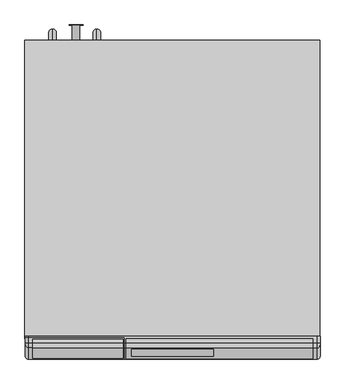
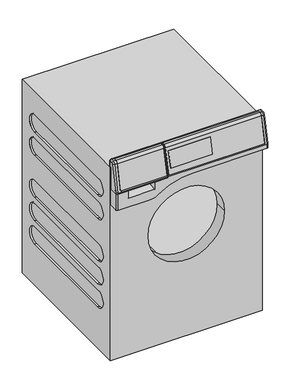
"""IFC4 building model written with IfcOpenShell, lengths in millimetres: proxy geometry, 11470760_ZER_PWM307DP_LWCC : 51307172_ZER_11470760_PWM307DP_LWCC."""

from ifc_helpers import new_model, si_unit, point, frame, frame_2d, origin, place, context, project, spatial, polyline, circle_curve, ellipse_curve, trimmed, segment, composite_curve, outline, extrude, source, transform, mapped, element, save
from ifc_brep_helpers import plane_surface, cylinder_surface, revolved_surface, advanced_brep


def specialty_equipment_ffc2add7(model_context):
    return source(origin(), model_context, "Body", "SolidModel", [
        advanced_brep(
        [(-297.5, -634.5, 819.0), (-297.5, -640.0, 819.0), (-297.5, -640.0, 727.0), (-297.5, -671.0, 727.0), (-297.5, -671.0, 730.2642704), (-297.5, -648.6353607, 835.4816256), (-297.5, -644.8274781, 838.6486082), (-297.5, -634.5, 838.9190427), (-97.5, -655.4823939, 836.9370075), (-97.5, -678.0, 731.0), (-97.5, -678.0, 727.0), (-97.5, -640.0, 727.0), (-97.5, -640.0, 819.0), (-97.5, -634.5, 819.0), (-97.5, -634.5, 845.9214422), (-97.5, -645.0107168, 845.6462094), (-98.5, -655.4823939, 836.9370075), (-98.5, -677.1497738, 735.0), (-282.5, -677.1497738, 735.0), (-282.5, -655.4823939, 836.9370075), (-290.5, -655.4823939, 836.9370075), (-290.5, -678.0, 731.0), (-290.5, -678.0, 727.0), (-290.5, -634.5, 845.9214422), (-290.5, -645.0107168, 845.6462094), (-282.5, -645.0107168, 845.6462094), (-282.5, -636.5, 845.8690704), (-98.5, -636.5, 845.8690704), (-98.5, -645.0107168, 845.6462094), (-98.5, -654.5042463, 836.7290958), (-98.5, -676.1274332, 735.0), (-98.5, -636.5, 844.8687276), (-98.5, -644.9845398, 844.6465521), (-282.5, -654.5042463, 836.7290958), (-282.5, -644.9845398, 844.6465521), (-282.5, -636.5, 844.8687276), (-282.5, -676.1274332, 735.0)],
        [
            (0, 1),
            (1, 2),
            (2, 3),
            (3, 4),
            (4, 5),
            (5, 6, circle_curve(frame((-297.5, -644.7227703, 834.6499789), z_axis=(-1.0, 0.0, 0.0), x_axis=(0.0, -0.978147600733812, 0.20791169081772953)), 4.0)),
            (6, 7),
            (7, 0),
            (8, 9),
            (9, 10),
            (10, 11),
            (11, 12),
            (12, 13),
            (13, 14),
            (14, 15),
            (15, 8, circle_curve(frame((-97.5, -644.7227703, 834.6499789), z_axis=(1.0, 0.0, 0.0), x_axis=(0.0, 1.0, 0.0)), 11.0)),
            (8, 16),
            (16, 17),
            (17, 18),
            (18, 19),
            (19, 20),
            (20, 21),
            (21, 9),
            (21, 22),
            (22, 10),
            (22, 3, circle_curve(frame((-290.5, -671.0, 727.0), z_axis=(0.0, 0.0, -1.0), x_axis=(0.0, 1.0, 0.0)), 7.0)),
            (2, 11),
            (1, 12),
            (0, 13),
            (7, 23, ellipse_curve(frame((-290.5, -634.5, 838.9190427), z_axis=(0.0, 1.0, 0.0), x_axis=(0.0, 0.0, 1.0)), 7.0023995, 7.0)),
            (23, 14),
            (23, 24),
            (24, 25),
            (25, 26),
            (26, 27),
            (27, 28),
            (28, 15),
            (28, 16, circle_curve(frame((-98.5, -644.7227703, 834.6499789), z_axis=(1.0, 0.0, 0.0), x_axis=(0.0, 1.0, 0.0)), 11.0)),
            (19, 25, circle_curve(frame((-282.5, -644.7227703, 834.6499789), z_axis=(-1.0, 0.0, 0.0), x_axis=(0.0, 1.0, 0.0)), 11.0)),
            (24, 20, circle_curve(frame((-290.5, -644.7227703, 834.6499789), z_axis=(1.0, 0.0, 0.0), x_axis=(0.0, 1.0, 0.0)), 11.0)),
            (29, 30),
            (30, 17),
            (27, 31),
            (31, 32),
            (32, 29, circle_curve(frame((-98.5, -644.7227703, 834.6499789), z_axis=(1.0, 0.0, 0.0), x_axis=(0.0, 1.0, 0.0)), 10.0)),
            (33, 34, circle_curve(frame((-282.5, -644.7227703, 834.6499789), z_axis=(-1.0, 0.0, 0.0), x_axis=(0.0, 1.0, 0.0)), 10.0)),
            (34, 35),
            (35, 26),
            (18, 36),
            (36, 33),
            (29, 33),
            (36, 30),
            (32, 34),
            (31, 35),
            (6, 24, circle_curve(frame((-290.5, -644.8274781, 838.6486082), z_axis=(0.0, 0.9996573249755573, 0.026176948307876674), x_axis=(0.0, 0.026176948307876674, -0.9996573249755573)), 7.0)),
            (21, 4, ellipse_curve(frame((-290.5, -671.0, 730.2642704), z_axis=(0.0, -0.10452846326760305, -0.9945218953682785), x_axis=(0.0, -0.9945218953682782, 0.1045284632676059)), 7.038558, 7.0)),
            (20, 5, circle_curve(frame((-290.5, -648.6353607, 835.4816256), z_axis=(0.0, -0.2079116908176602, -0.9781476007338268), x_axis=(0.0, 0.9781476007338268, -0.2079116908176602)), 7.0)),
        ],
        [
            plane_surface(frame((-297.5, -655.4823939, 836.9370075), z_axis=(-1.0, 0.0, 0.0), x_axis=(0.0, 0.20791169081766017, 0.9781476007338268))),
            plane_surface(frame((-97.5, -655.4823939, 836.9370075), z_axis=(1.0, 0.0, 0.0), x_axis=(0.0, -0.20791169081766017, -0.9781476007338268))),
            plane_surface(frame((-97.5, -655.4823939, 836.9370075), z_axis=(0.0, -0.9781476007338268, 0.20791169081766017), x_axis=(-1.0, 0.0, 0.0))),
            plane_surface(frame((-97.5, -678.0, 731.0), z_axis=(0.0, -1.0, 0.0), x_axis=(-1.0, 0.0, 0.0))),
            plane_surface(frame((-97.5, -678.0, 727.0), z_axis=(0.0, 0.0, -1.0), x_axis=(-1.0, 0.0, 0.0))),
            plane_surface(frame((-97.5, -640.0, 727.0), z_axis=(0.0, 1.0, 0.0), x_axis=(-1.0, 0.0, 0.0))),
            plane_surface(frame((-97.5, -640.0, 819.0), z_axis=(0.0, 0.0, -1.0), x_axis=(-1.0, 0.0, 0.0))),
            plane_surface(frame((-97.5, -634.5, 819.0), z_axis=(0.0, 1.0, 0.0), x_axis=(-1.0, 0.0, 0.0))),
            plane_surface(frame((-97.5, -634.5, 845.9214422), z_axis=(0.0, -0.02617694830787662, 0.9996573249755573), x_axis=(-1.0, 0.0, 0.0))),
            cylinder_surface(frame((-297.5, -644.7227703, 834.6499789), z_axis=(1.0, 0.0, 0.0), x_axis=(0.0, 1.0, 0.0)), 11.0),
            plane_surface(frame((-98.5, -634.7227703, 834.6499789), z_axis=(-1.0, 0.0, 0.0), x_axis=(0.0, 0.0, -1.0))),
            plane_surface(frame((-282.5, -634.7227703, 834.6499789), z_axis=(1.0, 0.0, 0.0), x_axis=(0.0, 0.0, 1.0))),
            plane_surface(frame((-98.5, -676.1274332, 735.0), z_axis=(0.0, -0.9781476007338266, 0.2079116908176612), x_axis=(-1.0, 0.0, 0.0))),
            cylinder_surface(frame((-282.5, -644.7227703, 834.6499789), z_axis=(-1.0, 0.0, 0.0), x_axis=(0.0, 1.0, 0.0)), 10.0),
            plane_surface(frame((-98.5, -644.9845398, 844.6465521), z_axis=(0.0, -0.026176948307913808, 0.9996573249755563), x_axis=(-1.0, 0.0, 0.0))),
            plane_surface(frame((-98.5, -636.5, 844.8687276), z_axis=(0.0, -1.0, 0.0), x_axis=(-1.0, 0.0, 0.0))),
            plane_surface(frame((-98.5, -677.1497738, 735.0), z_axis=(0.0, 0.0, 1.0), x_axis=(-1.0, 0.0, 0.0))),
            cylinder_surface(frame((-290.5, -644.8274781, 838.6486082), z_axis=(0.0, 0.9996573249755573, 0.026176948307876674), x_axis=(0.0, 0.026176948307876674, -0.9996573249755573)), 7.0),
            cylinder_surface(frame((-290.5, -671.0, 727.0), z_axis=(0.0, 0.0, 1.0), x_axis=(0.0, 1.0, 0.0)), 7.0),
            cylinder_surface(frame((-290.5, -671.1529668, 729.5446182), z_axis=(0.0, 0.2079116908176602, 0.9781476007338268), x_axis=(0.0, 0.9781476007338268, -0.2079116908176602)), 7.0),
            revolved_surface(trimmed(ellipse_curve(frame((-290.5, -648.6353607, 835.4816256), z_axis=(0.0, -0.20791169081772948, -0.978147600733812), x_axis=(0.0, 0.978147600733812, -0.20791169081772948)), 7.0, 7.0), [point((-290.5, -655.4823939, 836.9370075))], [point((-297.5, -648.6353607, 835.4816256))], True, "CARTESIAN"), (-297.5, -644.7227703, 834.6499789), (-1.0, 0.0, 0.0)),
        ],
        [
            (0, [[1, 2, 3, 4, 5, 6, 7, 8]]),
            (1, [[9, 10, 11, 12, 13, 14, 15, 16]]),
            (2, [[-9, 17, 18, 19, 20, 21, 22, 23]]),
            (3, [[-10, -23, 24, 25]]),
            (4, [[-11, -25, 26, -3, 27]]),
            (5, [[-2, 28, -12, -27]]),
            (6, [[-1, 29, -13, -28]]),
            (7, [[-14, -29, -8, 30, 31]]),
            (8, [[-15, -31, 32, 33, 34, 35, 36, 37]]),
            (9, [[-16, -37, 38, -17]]),
            (9, [[39, -33, 40, -21]]),
            (10, [[41, 42, -18, -38, -36, 43, 44, 45]]),
            (11, [[46, 47, 48, -34, -39, -20, 49, 50]]),
            (12, [[-41, 51, -50, 52]]),
            (13, [[-45, 53, -46, -51]]),
            (14, [[-44, 54, -47, -53]]),
            (15, [[-43, -35, -48, -54]]),
            (16, [[-42, -52, -49, -19]]),
            (17, [[55, -32, -30, -7]]),
            (18, [[56, -4, -26, -24]]),
            (19, [[-56, -22, 57, -5]]),
            (20, [[-57, -40, -55, -6]]),
        ],
    ),
        extrude(outline(polyline([(-671.2386322, 758.0), (-672.2609728, 758.0), (-658.4447963, 823.0), (-657.4224557, 823.0), (-671.2386322, 758.0)])), frame((-82.5, 0.0, 0.0), z_axis=(1.0, 0.0, 0.0), x_axis=(0.0, 1.0, 0.0)), (0.0, 0.0, 1.0), 165.0),
        advanced_brep(
        [(284.0, -654.5042463, 836.7290958), (284.0, -644.9845398, 844.6465521), (284.0, -636.5, 844.8687276), (284.0, -636.5, 845.8690704), (284.0, -645.0107168, 845.6462094), (284.0, -655.4823939, 836.9370075), (284.0, -677.1497738, 735.0), (284.0, -676.1274332, 735.0), (-93.0, -654.5042463, 836.7290958), (-93.0, -676.1274332, 735.0), (-93.0, -677.1497738, 735.0), (-93.0, -655.4823939, 836.9370075), (-93.0, -645.0107168, 845.6462094), (-93.0, -636.5, 845.8690704), (-93.0, -636.5, 844.8687276), (-93.0, -644.9845398, 844.6465521), (82.5, -658.4447963, 823.0), (82.5, -672.2609728, 758.0), (-82.5, -672.2609728, 758.0), (-82.5, -658.4447963, 823.0), (82.5, -671.2386322, 758.0), (82.5, -657.4224557, 823.0), (-82.5, -657.4224557, 823.0), (-82.5, -671.2386322, 758.0)],
        [
            (0, 1, circle_curve(frame((284.0, -644.7227703, 834.6499789), z_axis=(-1.0, 0.0, 0.0), x_axis=(0.0, 1.0, 0.0)), 10.0)),
            (1, 2),
            (2, 3),
            (3, 4),
            (4, 5, circle_curve(frame((284.0, -644.7227703, 834.6499789), z_axis=(1.0, 0.0, 0.0), x_axis=(0.0, 1.0, 0.0)), 11.0)),
            (5, 6),
            (6, 7),
            (7, 0),
            (8, 9),
            (9, 10),
            (10, 11),
            (11, 12, circle_curve(frame((-93.0, -644.7227703, 834.6499789), z_axis=(-1.0, 0.0, 0.0), x_axis=(0.0, 1.0, 0.0)), 11.0)),
            (12, 13),
            (13, 14),
            (14, 15),
            (15, 8, circle_curve(frame((-93.0, -644.7227703, 834.6499789), z_axis=(1.0, 0.0, 0.0), x_axis=(0.0, 1.0, 0.0)), 10.0)),
            (0, 8),
            (15, 1),
            (14, 2),
            (13, 3),
            (12, 4),
            (11, 5),
            (10, 6),
            (16, 17),
            (17, 18),
            (18, 19),
            (19, 16),
            (9, 7),
            (20, 21),
            (21, 22),
            (22, 23),
            (23, 20),
            (20, 17),
            (16, 21),
            (22, 19),
            (18, 23),
        ],
        [
            plane_surface(frame((284.0, -634.7227703, 834.6499789), z_axis=(1.0, 0.0, 0.0), x_axis=(0.0, 0.0, -1.0))),
            plane_surface(frame((-93.0, -634.7227703, 834.6499789), z_axis=(-1.0, 0.0, 0.0), x_axis=(0.0, 0.0, 1.0))),
            revolved_surface(polyline([(-93.0, -634.7227703, 834.6499789), (284.0, -634.7227703, 834.6499789)]), (-93.0, -644.7227703, 834.6499789), (-1.0, 0.0, 0.0)),
            plane_surface(frame((284.0, -644.9845398, 844.6465521), z_axis=(0.0, 0.02617694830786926, -0.9996573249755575), x_axis=(-1.0, 0.0, 0.0))),
            plane_surface(frame((284.0, -636.5, 844.8687276), z_axis=(0.0, 1.0, 0.0), x_axis=(-1.0, 0.0, 0.0))),
            plane_surface(frame((284.0, -636.5, 845.8690704), z_axis=(0.0, -0.026176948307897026, 0.9996573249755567), x_axis=(-1.0, 0.0, 0.0))),
            cylinder_surface(frame((-93.0, -644.7227703, 834.6499789), z_axis=(1.0, 0.0, 0.0), x_axis=(0.0, 1.0, 0.0)), 11.0),
            plane_surface(frame((284.0, -655.4823939, 836.9370075), z_axis=(0.0, -0.9781476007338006, 0.20791169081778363), x_axis=(-1.0, 0.0, 0.0))),
            plane_surface(frame((284.0, -677.1497738, 735.0), z_axis=(0.0, 0.0, -1.0), x_axis=(-1.0, 0.0, 0.0))),
            plane_surface(frame((284.0, -676.1274332, 735.0), z_axis=(0.0, 0.9781476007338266, -0.2079116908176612), x_axis=(-1.0, 0.0, 0.0))),
            plane_surface(frame((82.5, -658.4447963, 823.0), z_axis=(-1.0, 0.0, 0.0), x_axis=(0.0, -1.0, 0.0))),
            plane_surface(frame((-82.5, -658.4447963, 823.0), z_axis=(1.0, 0.0, 0.0), x_axis=(0.0, 1.0, 0.0))),
            plane_surface(frame((82.5, -657.4224557, 823.0), z_axis=(0.0, 0.0, -1.0), x_axis=(-1.0, 0.0, 0.0))),
            plane_surface(frame((82.5, -672.2609728, 758.0), z_axis=(0.0, 0.0, 1.0), x_axis=(-1.0, 0.0, 0.0))),
        ],
        [
            (0, [[1, 2, 3, 4, 5, 6, 7, 8]]),
            (1, [[9, 10, 11, 12, 13, 14, 15, 16]]),
            (2, [[-1, 17, -16, 18]]),
            (3, [[-2, -18, -15, 19]]),
            (4, [[-3, -19, -14, 20]]),
            (5, [[-4, -20, -13, 21]]),
            (6, [[-5, -21, -12, 22]]),
            (7, [[-6, -22, -11, 23], [24, 25, 26, 27]]),
            (8, [[-7, -23, -10, 28]]),
            (9, [[-8, -28, -9, -17], [29, 30, 31, 32]]),
            (10, [[33, -24, 34, -29]]),
            (11, [[35, -26, 36, -31]]),
            (12, [[-34, -27, -35, -30]]),
            (13, [[-33, -32, -36, -25]]),
        ],
    ),
        advanced_brep(
        [(298.5, -637.0, 816.0), (298.5, -631.5, 816.0), (298.5, -631.5, 838.9976005), (298.5, -644.8274781, 838.6486082), (298.5, -648.6353607, 835.4816256), (298.5, -671.0, 730.2642704), (298.5, -671.0, 713.0), (298.5, -637.0, 713.0), (-297.5, -637.0, 816.0), (-297.5, -637.0, 660.0), (-297.5, -671.0, 660.0), (-297.5, -671.0, 727.0), (-297.5, -640.0, 727.0), (-297.5, -640.0, 819.0), (-297.5, -634.5, 819.0), (-297.5, -634.5, 838.9190427), (-297.5, -631.5, 838.9976005), (-297.5, -631.5, 816.0), (-290.5, -631.5, 846.0), (291.5, -631.5, 846.0), (284.0, -636.5, 845.8690704), (284.0, -645.0107168, 845.6462094), (291.5, -645.0107168, 845.6462094), (-290.5, -634.5, 845.9214422), (-97.5, -634.5, 845.9214422), (-97.5, -645.0107168, 845.6462094), (-93.0, -645.0107168, 845.6462094), (-93.0, -636.5, 845.8690704), (284.0, -655.4823939, 836.9370075), (291.5000072, -655.4823939, 836.9370075), (-93.0, -655.4823939, 836.9370075), (-97.5, -655.4823939, 836.9370075), (284.0, -677.1497738, 735.0), (-93.0, -677.1497738, 735.0), (-97.5, -678.0, 731.0), (291.5, -678.0, 731.0), (-97.5, -678.0, 727.0), (-148.5, -678.0, 727.0), (-148.5, -678.0, 697.0), (-251.5, -678.0, 697.0), (-251.5, -678.0, 727.0), (-290.5, -678.0, 727.0), (-290.5, -678.0, 660.0), (-170.6302935, -678.0, 660.0), (-135.780818, -678.0, 670.5165354), (5.0, -678.0, 713.0), (291.5, -678.0, 713.0), (-170.6302935, -637.0, 660.0), (5.0, -637.0, 713.0), (-135.780818, -637.0, 670.5165354), (284.0, -636.5, 844.8687276), (284.0, -644.9845398, 844.6465521), (284.0, -654.5042463, 836.7290958), (284.0, -676.1274332, 735.0), (-93.0, -676.1274332, 735.0), (-93.0, -654.5042463, 836.7290958), (-93.0, -644.9845398, 844.6465521), (-93.0, -636.5, 844.8687276), (-97.5, -634.5, 819.0), (-97.5, -640.0, 819.0), (-97.5, -640.0, 727.0), (-148.5, -640.0, 727.0), (-251.5, -640.0, 727.0), (-251.5, -640.0, 703.7004253), (-148.5, -640.0, 703.7004253)],
        [
            (0, 1),
            (1, 2),
            (2, 3),
            (3, 4, circle_curve(frame((298.5, -644.7227703, 834.6499789), z_axis=(1.0, 0.0, 0.0), x_axis=(0.0, -0.02617694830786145, 0.9996573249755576)), 4.0)),
            (4, 5),
            (5, 6),
            (6, 7),
            (7, 0),
            (8, 9),
            (9, 10),
            (10, 11),
            (11, 12),
            (12, 13),
            (13, 14),
            (14, 15),
            (15, 16),
            (16, 17),
            (17, 8),
            (0, 8),
            (17, 1),
            (16, 18, ellipse_curve(frame((-290.5, -631.5, 838.9976005), z_axis=(0.0, 1.0, 0.0), x_axis=(0.0, 0.0, 0.9999999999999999)), 7.0023995, 7.0)),
            (18, 19),
            (19, 2, ellipse_curve(frame((291.5, -631.5, 838.9976005), z_axis=(0.0, 1.0, 0.0), x_axis=(0.0, 0.0, -1.0)), 7.0023995, 7.0)),
            (20, 21),
            (21, 22),
            (22, 19),
            (18, 23),
            (23, 24),
            (24, 25),
            (25, 26),
            (26, 27),
            (27, 20),
            (21, 28, circle_curve(frame((284.0, -644.7227703, 834.6499789), z_axis=(1.0, 0.0, 0.0), x_axis=(0.0, 1.0, 0.0)), 11.0)),
            (28, 29),
            (29, 22, circle_curve(frame((291.5, -644.7227703, 834.6499789), z_axis=(-1.0, 0.0, 0.0), x_axis=(0.0, 1.0, 0.0)), 11.0)),
            (30, 26, circle_curve(frame((-93.0, -644.7227703, 834.6499789), z_axis=(-1.0, 0.0, 0.0), x_axis=(0.0, 1.0, 0.0)), 11.0)),
            (25, 31, circle_curve(frame((-97.5, -644.7227703, 834.6499789), z_axis=(1.0, 0.0, 0.0), x_axis=(0.0, 1.0, 0.0)), 11.0)),
            (31, 30),
            (28, 32),
            (32, 33),
            (33, 30),
            (31, 34),
            (34, 35),
            (35, 29),
            (34, 36),
            (36, 37),
            (37, 38),
            (38, 39),
            (39, 40),
            (40, 41),
            (41, 42),
            (42, 43),
            (43, 44, circle_curve(frame((-170.6302935, -678.0, 723.0), z_axis=(0.0, -1.0, 0.0), x_axis=(1.0, 0.0, 0.0)), 63.0)),
            (44, 45, circle_curve(frame((5.0, -678.0, 458.5), z_axis=(0.0, 1.0, 0.0), x_axis=(1.0, 0.0, 0.0)), 254.5)),
            (45, 46),
            (46, 35),
            (9, 47),
            (47, 43),
            (42, 10, circle_curve(frame((-290.5, -671.0, 660.0), z_axis=(0.0, 0.0, -1.0), x_axis=(0.0, 1.0, 0.0)), 7.0)),
            (7, 48),
            (48, 49, circle_curve(frame((5.0, -637.0, 458.5), z_axis=(0.0, -1.0, 0.0), x_axis=(1.0, 0.0, 0.0)), 254.5)),
            (49, 47, circle_curve(frame((-170.6302935, -637.0, 723.0), z_axis=(0.0, 1.0, 0.0), x_axis=(1.0, 0.0, 0.0)), 63.0)),
            (20, 50),
            (50, 51),
            (51, 52, circle_curve(frame((284.0, -644.7227703, 834.6499789), z_axis=(1.0, 0.0, 0.0), x_axis=(0.0, 1.0, 0.0)), 10.0)),
            (52, 53),
            (53, 32),
            (33, 54),
            (54, 55),
            (55, 56, circle_curve(frame((-93.0, -644.7227703, 834.6499789), z_axis=(-1.0, 0.0, 0.0), x_axis=(0.0, 1.0, 0.0)), 10.0)),
            (56, 57),
            (57, 27),
            (53, 54),
            (52, 55),
            (51, 56),
            (50, 57),
            (24, 58),
            (58, 59),
            (59, 60),
            (60, 36),
            (60, 61),
            (61, 37),
            (62, 12),
            (11, 41, circle_curve(frame((-290.5, -671.0, 727.0), z_axis=(0.0, 0.0, 1.0), x_axis=(0.0, 1.0, 0.0)), 7.0)),
            (40, 62),
            (59, 13),
            (62, 63),
            (63, 64),
            (64, 61),
            (58, 14),
            (23, 15, ellipse_curve(frame((-290.5, -634.5, 838.9190427), z_axis=(0.0, -1.0, 0.0), x_axis=(0.0, 0.0, 0.9999999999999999)), 7.0023995, 7.0)),
            (64, 38),
            (39, 63),
            (22, 3, circle_curve(frame((291.5, -644.8274781, 838.6486082), z_axis=(0.0, 0.9996573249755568, 0.02617694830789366), x_axis=(1.0, 0.0, 0.0)), 7.0)),
            (29, 4, circle_curve(frame((291.5, -648.6353607, 835.4816256), z_axis=(0.0, 0.20791169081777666, 0.9781476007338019), x_axis=(1.0, 0.0, 0.0)), 7.0)),
            (35, 5, ellipse_curve(frame((291.5, -671.0, 730.2642704), z_axis=(0.0, 0.10452846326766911, 0.9945218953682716), x_axis=(0.0, -0.9945218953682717, 0.10452846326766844)), 7.038558, 7.0)),
            (46, 6, circle_curve(frame((291.5, -671.0, 713.0), z_axis=(0.0, 0.0, 1.0), x_axis=(1.0, 0.0, 0.0)), 7.0)),
            (45, 48),
            (44, 49),
        ],
        [
            plane_surface(frame((298.5, -631.5, 816.0), z_axis=(1.0, 0.0, 0.0), x_axis=(0.0, 1.0, 0.0))),
            plane_surface(frame((-297.5, -631.5, 816.0), z_axis=(-1.0, 0.0, 0.0), x_axis=(0.0, -1.0, 0.0))),
            plane_surface(frame((298.5, -637.0, 816.0), z_axis=(0.0, 0.0, -1.0), x_axis=(-1.0, 0.0, 0.0))),
            plane_surface(frame((298.5, -631.5, 816.0), z_axis=(0.0, 1.0, 0.0), x_axis=(-1.0, 0.0, 0.0))),
            plane_surface(frame((298.5, -631.5, 846.0), z_axis=(0.0, -0.026176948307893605, 0.9996573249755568), x_axis=(-1.0, 0.0, 0.0))),
            cylinder_surface(frame((-297.5, -644.7227703, 834.6499789), z_axis=(1.0, 0.0, 0.0), x_axis=(0.0, 1.0, 0.0)), 11.0),
            plane_surface(frame((298.5, -655.4823939, 836.9370075), z_axis=(0.0, -0.9781476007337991, 0.20791169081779), x_axis=(-1.0, 0.0, 0.0))),
            plane_surface(frame((298.5, -678.0, 731.0), z_axis=(0.0, -1.0, 0.0), x_axis=(-1.0, 0.0, 0.0))),
            plane_surface(frame((298.5, -678.0, 660.0), z_axis=(0.0, 0.0, -1.0), x_axis=(-1.0, 0.0, 0.0))),
            plane_surface(frame((298.5, -637.0, 660.0), z_axis=(0.0, 1.0, 0.0), x_axis=(-1.0, 0.0, 0.0))),
            plane_surface(frame((284.0, -677.1497738, 735.0), z_axis=(-1.0, 0.0, 0.0), x_axis=(0.0, 1.0, 0.0))),
            plane_surface(frame((-93.0, -677.1497738, 735.0), z_axis=(1.0, 0.0, 0.0), x_axis=(0.0, -1.0, 0.0))),
            plane_surface(frame((284.0, -677.1497738, 735.0), z_axis=(0.0, 0.0, 1.0), x_axis=(-1.0, 0.0, 0.0))),
            plane_surface(frame((284.0, -676.1274332, 735.0), z_axis=(0.0, -0.9781476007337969, 0.20791169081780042), x_axis=(-1.0, 0.0, 0.0))),
            cylinder_surface(frame((-93.0, -644.7227703, 834.6499789), z_axis=(-1.0, 0.0, 0.0), x_axis=(0.0, 1.0, 0.0)), 10.0),
            plane_surface(frame((284.0, -644.9845398, 844.6465521), z_axis=(0.0, -0.026176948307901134, 0.9996573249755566), x_axis=(-1.0, 0.0, 0.0))),
            plane_surface(frame((284.0, -636.5, 844.8687276), z_axis=(0.0, -1.0, 0.0), x_axis=(-1.0, 0.0, 0.0))),
            plane_surface(frame((-97.5, -678.0, 727.0), z_axis=(-1.0, 0.0, 0.0), x_axis=(0.0, 1.0, 0.0))),
            plane_surface(frame((-97.5, -678.0, 727.0), z_axis=(0.0, 0.0, 1.0), x_axis=(-1.0, 0.0, 0.0))),
            plane_surface(frame((-97.5, -640.0, 727.0), z_axis=(0.0, -1.0, 0.0), x_axis=(-1.0, 0.0, 0.0))),
            plane_surface(frame((-97.5, -640.0, 819.0), z_axis=(0.0, 0.0, 1.0), x_axis=(-1.0, 0.0, 0.0))),
            plane_surface(frame((-97.5, -634.5, 819.0), z_axis=(0.0, -1.0, 0.0), x_axis=(-1.0, 0.0, 0.0))),
            plane_surface(frame((-148.5, -678.0, 697.0), z_axis=(-1.0000000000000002, 0.0, 0.0), x_axis=(0.0, 0.9848077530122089, 0.17364817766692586))),
            plane_surface(frame((-251.5, -678.0, 697.0), z_axis=(1.0000000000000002, 0.0, 0.0), x_axis=(0.0, -0.9848077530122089, -0.17364817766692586))),
            plane_surface(frame((-148.5, -678.0, 697.0), z_axis=(0.0, -0.17364817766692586, 0.9848077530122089), x_axis=(-1.0, 0.0, 0.0))),
            cylinder_surface(frame((-290.5, -671.0, 660.0), z_axis=(0.0, 0.0, 1.0), x_axis=(0.0, 1.0, 0.0)), 7.0),
            cylinder_surface(frame((-290.5, -644.8274781, 838.6486082), z_axis=(0.0, 0.9996573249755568, 0.02617694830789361), x_axis=(0.0, 0.02617694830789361, -0.9996573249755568)), 7.0),
            cylinder_surface(frame((291.5, -631.3167614, 839.0023987), z_axis=(0.0, -0.9996573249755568, -0.02617694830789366), x_axis=(1.0, 0.0, 0.0)), 7.0),
            revolved_surface(trimmed(ellipse_curve(frame((291.5, -644.8274781, 838.6486082), z_axis=(0.0, 0.9996573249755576, 0.026176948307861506), x_axis=(1.0, 0.0, 0.0)), 7.0, 7.0), [point((291.5, -645.0107168, 845.6462094))], [point((298.5, -644.8274781, 838.6486082))], True, "CARTESIAN"), (298.5, -644.7227703, 834.6499789), (1.0, 0.0, 0.0)),
            cylinder_surface(frame((291.5, -648.6353607, 835.4816256), z_axis=(0.0, -0.20791169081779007, -0.9781476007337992), x_axis=(1.0, 0.0, 0.0)), 7.0),
            cylinder_surface(frame((291.5, -671.0, 731.0), z_axis=(0.0, 0.0, -1.0), x_axis=(1.0, 0.0, 0.0)), 7.0),
            plane_surface(frame((298.5, -678.0, 713.0), z_axis=(0.0, 0.0, -1.0), x_axis=(0.0, 1.0, 0.0))),
            revolved_surface(polyline([(259.5, -678.0, 458.5), (259.5, -637.0, 458.5)]), (5.0, -637.0, 458.5), (0.0, -1.0, 0.0)),
            cylinder_surface(frame((-170.6302935, -637.0, 723.0), z_axis=(0.0, 1.0, 0.0), x_axis=(1.0, 0.0, 0.0)), 63.0),
        ],
        [
            (0, [[1, 2, 3, 4, 5, 6, 7, 8]]),
            (1, [[9, 10, 11, 12, 13, 14, 15, 16, 17, 18]]),
            (2, [[-1, 19, -18, 20]]),
            (3, [[-20, -17, 21, 22, 23, -2]]),
            (4, [[24, 25, 26, -22, 27, 28, 29, 30, 31, 32]]),
            (5, [[33, 34, 35, -25]]),
            (5, [[36, -30, 37, 38]]),
            (6, [[39, 40, 41, -38, 42, 43, 44, -34]]),
            (7, [[45, 46, 47, 48, 49, 50, 51, 52, 53, 54, 55, 56, -43]]),
            (8, [[-10, 57, 58, -52, 59]]),
            (9, [[-9, -19, -8, 60, 61, 62, -57]]),
            (10, [[63, 64, 65, 66, 67, -39, -33, -24]]),
            (11, [[68, 69, 70, 71, 72, -31, -36, -41]]),
            (12, [[-67, 73, -68, -40]]),
            (13, [[-66, 74, -69, -73]]),
            (14, [[-65, 75, -70, -74]]),
            (15, [[-64, 76, -71, -75]]),
            (16, [[-63, -32, -72, -76]]),
            (17, [[77, 78, 79, 80, -45, -42, -37, -29]]),
            (18, [[-80, 81, 82, -46]]),
            (18, [[83, -12, 84, -50, 85]]),
            (19, [[-79, 86, -13, -83, 87, 88, 89, -81]]),
            (20, [[-78, 90, -14, -86]]),
            (21, [[-77, -28, 91, -15, -90]]),
            (22, [[-89, 92, -47, -82]]),
            (23, [[93, -87, -85, -49]]),
            (24, [[-92, -88, -93, -48]]),
            (25, [[-11, -59, -51, -84]]),
            (26, [[-16, -91, -27, -21]]),
            (27, [[94, -3, -23, -26]]),
            (28, [[-94, -35, 95, -4]]),
            (29, [[-95, -44, 96, -5]]),
            (30, [[-96, -56, 97, -6]]),
            (31, [[98, -60, -7, -97, -55]]),
            (32, [[-98, -54, 99, -61]]),
            (33, [[-99, -53, -58, -62]]),
        ],
    ),
        extrude(outline(composite_curve([segment(polyline([(-676.1274332, 735.0), (-677.1497738, 735.0), (-655.4823939, 836.9370075)]), True, "CONTINUOUS"), segment(trimmed(circle_curve(frame_2d((-644.7227703, 834.6499789)), 11.0), [point((-655.4823939, 836.9370075))], [point((-645.0107168, 845.6462094))], False, "CARTESIAN"), True, "CONTINUOUS"), segment(polyline([(-645.0107168, 845.6462094), (-636.5, 845.8690704), (-636.5, 844.8687276), (-644.9845398, 844.6465521)]), True, "CONTINUOUS"), segment(trimmed(circle_curve(frame_2d((-644.7227703, 834.6499789)), 10.0), [point((-644.9845398, 844.6465521))], [point((-654.5042463, 836.7290958))], True, "CARTESIAN"), True, "CONTINUOUS"), segment(polyline([(-654.5042463, 836.7290958), (-676.1274332, 735.0)]), True, "CONTINUOUS")], self_intersect=False)), frame((-282.5, 0.0, 0.0), z_axis=(1.0, 0.0, 0.0), x_axis=(0.0, 1.0, 0.0)), (0.0, 0.0, 1.0), 184.0),
        advanced_brep(
        [(291.0, -552.0, 720.0), (291.0, -552.0, 650.0), (291.0, -122.0, 650.0), (291.0, -122.0, 720.0), (291.0, -552.0, 623.0), (291.0, -552.0, 553.0), (291.0, -122.0, 553.0), (291.0, -122.0, 623.0), (291.0, -552.0, 352.0), (291.0, -552.0, 282.0), (291.0, -122.0, 282.0), (291.0, -122.0, 352.0), (291.0, -552.0, 255.0), (291.0, -552.0, 185.0), (291.0, -122.0, 185.0), (291.0, -122.0, 255.0), (298.0, -552.0, 720.0), (298.0, -552.0, 650.0), (298.0, -122.0, 650.0), (298.0, -122.0, 720.0), (298.0, -552.0, 623.0), (298.0, -552.0, 553.0), (298.0, -122.0, 553.0), (298.0, -122.0, 623.0), (298.0, -552.0, 352.0), (298.0, -552.0, 282.0), (298.0, -122.0, 282.0), (298.0, -122.0, 352.0), (298.0, -552.0, 255.0), (298.0, -552.0, 185.0), (298.0, -122.0, 185.0), (298.0, -122.0, 255.0), (298.0, -35.0, 816.0), (298.0, -35.0, 13.5), (-298.0, -35.0, 13.5), (-298.0, -35.0, 816.0), (298.0, -637.0, 816.0), (-298.0, -637.0, 816.0), (-298.0, -637.0, 13.5), (298.0, -637.0, 13.5), (150.0, -637.0, 478.0), (-150.0, -637.0, 478.0), (298.0, -552.0, 379.0), (298.0, -552.0, 449.0), (298.0, -122.0, 449.0), (298.0, -122.0, 379.0), (-298.0, -552.0, 720.0), (-298.0, -552.0, 650.0), (-298.0, -122.0, 650.0), (-298.0, -122.0, 720.0), (-298.0, -552.0, 623.0), (-298.0, -552.0, 553.0), (-298.0, -122.0, 553.0), (-298.0, -122.0, 623.0), (-298.0, -552.0, 352.0), (-298.0, -552.0, 282.0), (-298.0, -122.0, 282.0), (-298.0, -122.0, 352.0), (-298.0, -552.0, 255.0), (-298.0, -552.0, 185.0), (-298.0, -122.0, 185.0), (-298.0, -122.0, 255.0), (-298.0, -552.0, 379.0), (-298.0, -122.0, 379.0), (-298.0, -122.0, 449.0), (-298.0, -552.0, 449.0), (291.0, -552.0, 449.0), (291.0, -552.0, 379.0), (291.0, -122.0, 379.0), (291.0, -122.0, 449.0), (-291.0, -552.0, 720.0), (-291.0, -122.0, 720.0), (-291.0, -122.0, 650.0), (-291.0, -552.0, 650.0), (-291.0, -552.0, 623.0), (-291.0, -122.0, 623.0), (-291.0, -122.0, 553.0), (-291.0, -552.0, 553.0), (-291.0, -552.0, 352.0), (-291.0, -122.0, 352.0), (-291.0, -122.0, 282.0), (-291.0, -552.0, 282.0), (-291.0, -552.0, 255.0), (-291.0, -122.0, 255.0), (-291.0, -122.0, 185.0), (-291.0, -552.0, 185.0), (-291.0, -552.0, 449.0), (-291.0, -122.0, 449.0), (-291.0, -122.0, 379.0), (-291.0, -552.0, 379.0), (0.0, -200.0, 234.0), (0.0, -200.0, 722.0), (0.0, -589.0, 234.0), (0.0, -589.0, 722.0), (-150.0, -589.0, 478.0), (150.0, -589.0, 478.0)],
        [
            (0, 1, circle_curve(frame((291.0, -552.0, 685.0), z_axis=(1.0, 0.0, 0.0), x_axis=(0.0, 1.0, 0.0)), 35.0)),
            (1, 2),
            (2, 3, circle_curve(frame((291.0, -122.0, 685.0), z_axis=(1.0, 0.0, 0.0), x_axis=(0.0, 1.0, 0.0)), 35.0)),
            (3, 0),
            (4, 5, circle_curve(frame((291.0, -552.0, 588.0), z_axis=(1.0, 0.0, 0.0), x_axis=(0.0, 1.0, 0.0)), 35.0)),
            (5, 6),
            (6, 7, circle_curve(frame((291.0, -122.0, 588.0), z_axis=(1.0, 0.0, 0.0), x_axis=(0.0, 1.0, 0.0)), 35.0)),
            (7, 4),
            (8, 9, circle_curve(frame((291.0, -552.0, 317.0), z_axis=(1.0, 0.0, 0.0), x_axis=(0.0, 1.0, 0.0)), 35.0)),
            (9, 10),
            (10, 11, circle_curve(frame((291.0, -122.0, 317.0), z_axis=(1.0, 0.0, 0.0), x_axis=(0.0, 1.0, 0.0)), 35.0)),
            (11, 8),
            (12, 13, circle_curve(frame((291.0, -552.0, 220.0), z_axis=(1.0, 0.0, 0.0), x_axis=(0.0, 1.0, 0.0)), 35.0)),
            (13, 14),
            (14, 15, circle_curve(frame((291.0, -122.0, 220.0), z_axis=(1.0, 0.0, 0.0), x_axis=(0.0, 1.0, 0.0)), 35.0)),
            (15, 12),
            (0, 16),
            (16, 17, circle_curve(frame((298.0, -552.0, 685.0), z_axis=(1.0, 0.0, 0.0), x_axis=(0.0, 1.0, 0.0)), 35.0)),
            (17, 1),
            (17, 18),
            (18, 2),
            (18, 19, circle_curve(frame((298.0, -122.0, 685.0), z_axis=(1.0, 0.0, 0.0), x_axis=(0.0, 1.0, 0.0)), 35.0)),
            (19, 3),
            (19, 16),
            (4, 20),
            (20, 21, circle_curve(frame((298.0, -552.0, 588.0), z_axis=(1.0, 0.0, 0.0), x_axis=(0.0, 1.0, 0.0)), 35.0)),
            (21, 5),
            (21, 22),
            (22, 6),
            (22, 23, circle_curve(frame((298.0, -122.0, 588.0), z_axis=(1.0, 0.0, 0.0), x_axis=(0.0, 1.0, 0.0)), 35.0)),
            (23, 7),
            (23, 20),
            (8, 24),
            (24, 25, circle_curve(frame((298.0, -552.0, 317.0), z_axis=(1.0, 0.0, 0.0), x_axis=(0.0, 1.0, 0.0)), 35.0)),
            (25, 9),
            (25, 26),
            (26, 10),
            (26, 27, circle_curve(frame((298.0, -122.0, 317.0), z_axis=(1.0, 0.0, 0.0), x_axis=(0.0, 1.0, 0.0)), 35.0)),
            (27, 11),
            (27, 24),
            (12, 28),
            (28, 29, circle_curve(frame((298.0, -552.0, 220.0), z_axis=(1.0, 0.0, 0.0), x_axis=(0.0, 1.0, 0.0)), 35.0)),
            (29, 13),
            (29, 30),
            (30, 14),
            (30, 31, circle_curve(frame((298.0, -122.0, 220.0), z_axis=(1.0, 0.0, 0.0), x_axis=(0.0, 1.0, 0.0)), 35.0)),
            (31, 15),
            (31, 28),
            (32, 33),
            (33, 34),
            (34, 35),
            (35, 32),
            (36, 37),
            (37, 38),
            (38, 39),
            (39, 36),
            (40, 41, circle_curve(frame((0.0, -637.0, 478.0), z_axis=(0.0, 1.0, 0.0), x_axis=(-1.0, 0.0, 0.0)), 150.0)),
            (41, 40, circle_curve(frame((0.0, -637.0, 478.0), z_axis=(0.0, 1.0, 0.0), x_axis=(-1.0, 0.0, 0.0)), 150.0)),
            (32, 36),
            (39, 33),
            (42, 43, circle_curve(frame((298.0, -552.0, 414.0), z_axis=(-1.0, 0.0, 0.0), x_axis=(0.0, 1.0, 0.0)), 35.0)),
            (43, 44),
            (44, 45, circle_curve(frame((298.0, -122.0, 414.0), z_axis=(-1.0, 0.0, 0.0), x_axis=(0.0, 1.0, 0.0)), 35.0)),
            (45, 42),
            (38, 34),
            (37, 35),
            (46, 47, circle_curve(frame((-298.0, -552.0, 685.0), z_axis=(1.0, 0.0, 0.0), x_axis=(0.0, 1.0, 0.0)), 35.0)),
            (47, 48),
            (48, 49, circle_curve(frame((-298.0, -122.0, 685.0), z_axis=(1.0, 0.0, 0.0), x_axis=(0.0, 1.0, 0.0)), 35.0)),
            (49, 46),
            (50, 51, circle_curve(frame((-298.0, -552.0, 588.0), z_axis=(1.0, 0.0, 0.0), x_axis=(0.0, 1.0, 0.0)), 35.0)),
            (51, 52),
            (52, 53, circle_curve(frame((-298.0, -122.0, 588.0), z_axis=(1.0, 0.0, 0.0), x_axis=(0.0, 1.0, 0.0)), 35.0)),
            (53, 50),
            (54, 55, circle_curve(frame((-298.0, -552.0, 317.0), z_axis=(1.0, 0.0, 0.0), x_axis=(0.0, 1.0, 0.0)), 35.0)),
            (55, 56),
            (56, 57, circle_curve(frame((-298.0, -122.0, 317.0), z_axis=(1.0, 0.0, 0.0), x_axis=(0.0, 1.0, 0.0)), 35.0)),
            (57, 54),
            (58, 59, circle_curve(frame((-298.0, -552.0, 220.0), z_axis=(1.0, 0.0, 0.0), x_axis=(0.0, 1.0, 0.0)), 35.0)),
            (59, 60),
            (60, 61, circle_curve(frame((-298.0, -122.0, 220.0), z_axis=(1.0, 0.0, 0.0), x_axis=(0.0, 1.0, 0.0)), 35.0)),
            (61, 58),
            (62, 63),
            (63, 64, circle_curve(frame((-298.0, -122.0, 414.0), z_axis=(1.0, 0.0, 0.0), x_axis=(0.0, 1.0, 0.0)), 35.0)),
            (64, 65),
            (65, 62, circle_curve(frame((-298.0, -552.0, 414.0), z_axis=(1.0, 0.0, 0.0), x_axis=(0.0, 1.0, 0.0)), 35.0)),
            (66, 67, circle_curve(frame((291.0, -552.0, 414.0), z_axis=(1.0, 0.0, 0.0), x_axis=(0.0, 1.0, 0.0)), 35.0)),
            (67, 68),
            (68, 69, circle_curve(frame((291.0, -122.0, 414.0), z_axis=(1.0, 0.0, 0.0), x_axis=(0.0, 1.0, 0.0)), 35.0)),
            (69, 66),
            (66, 43),
            (42, 67),
            (45, 68),
            (44, 69),
            (70, 71),
            (71, 72, circle_curve(frame((-291.0, -122.0, 685.0), z_axis=(-1.0, 0.0, 0.0), x_axis=(0.0, 1.0, 0.0)), 35.0)),
            (72, 73),
            (73, 70, circle_curve(frame((-291.0, -552.0, 685.0), z_axis=(-1.0, 0.0, 0.0), x_axis=(0.0, 1.0, 0.0)), 35.0)),
            (74, 75),
            (75, 76, circle_curve(frame((-291.0, -122.0, 588.0), z_axis=(-1.0, 0.0, 0.0), x_axis=(0.0, 1.0, 0.0)), 35.0)),
            (76, 77),
            (77, 74, circle_curve(frame((-291.0, -552.0, 588.0), z_axis=(-1.0, 0.0, 0.0), x_axis=(0.0, 1.0, 0.0)), 35.0)),
            (78, 79),
            (79, 80, circle_curve(frame((-291.0, -122.0, 317.0), z_axis=(-1.0, 0.0, 0.0), x_axis=(0.0, 1.0, 0.0)), 35.0)),
            (80, 81),
            (81, 78, circle_curve(frame((-291.0, -552.0, 317.0), z_axis=(-1.0, 0.0, 0.0), x_axis=(0.0, 1.0, 0.0)), 35.0)),
            (82, 83),
            (83, 84, circle_curve(frame((-291.0, -122.0, 220.0), z_axis=(-1.0, 0.0, 0.0), x_axis=(0.0, 1.0, 0.0)), 35.0)),
            (84, 85),
            (85, 82, circle_curve(frame((-291.0, -552.0, 220.0), z_axis=(-1.0, 0.0, 0.0), x_axis=(0.0, 1.0, 0.0)), 35.0)),
            (73, 47),
            (46, 70),
            (72, 48),
            (71, 49),
            (77, 51),
            (50, 74),
            (76, 52),
            (75, 53),
            (81, 55),
            (54, 78),
            (80, 56),
            (79, 57),
            (85, 59),
            (58, 82),
            (84, 60),
            (83, 61),
            (86, 87),
            (87, 88, circle_curve(frame((-291.0, -122.0, 414.0), z_axis=(-1.0, 0.0, 0.0), x_axis=(0.0, 1.0, 0.0)), 35.0)),
            (88, 89),
            (89, 86, circle_curve(frame((-291.0, -552.0, 414.0), z_axis=(-1.0, 0.0, 0.0), x_axis=(0.0, 1.0, 0.0)), 35.0)),
            (88, 63),
            (62, 89),
            (86, 65),
            (64, 87),
            (90, 91, circle_curve(frame((0.0, -200.0, 478.0), z_axis=(0.0, -1.0, 0.0), x_axis=(0.0, 0.0, 1.0)), 244.0)),
            (91, 90, circle_curve(frame((0.0, -200.0, 478.0), z_axis=(0.0, -1.0, 0.0), x_axis=(0.0, 0.0, 1.0)), 244.0)),
            (92, 93, circle_curve(frame((0.0, -589.0, 478.0), z_axis=(0.0, 1.0, 0.0), x_axis=(0.0, 0.0, 1.0)), 244.0)),
            (93, 92, circle_curve(frame((0.0, -589.0, 478.0), z_axis=(0.0, 1.0, 0.0), x_axis=(0.0, 0.0, 1.0)), 244.0)),
            (94, 95, circle_curve(frame((0.0, -589.0, 478.0), z_axis=(0.0, -1.0, 0.0), x_axis=(-1.0, 0.0, 0.0)), 150.0)),
            (95, 94, circle_curve(frame((0.0, -589.0, 478.0), z_axis=(0.0, -1.0, 0.0), x_axis=(-1.0, 0.0, 0.0)), 150.0)),
            (90, 92),
            (93, 91),
            (94, 41),
            (40, 95),
        ],
        [
            plane_surface(frame((291.0, -517.0, 685.0), z_axis=(1.0, 0.0, 0.0), x_axis=(0.0, 0.0, -1.0))),
            revolved_surface(polyline([(298.0, -517.0, 685.0), (291.0, -517.0, 685.0)]), (291.0, -552.0, 685.0), (1.0, 0.0, 0.0)),
            plane_surface(frame((298.0, -552.0, 650.0), z_axis=(0.0, 0.0, 1.0), x_axis=(-1.0, 0.0, 0.0))),
            revolved_surface(polyline([(298.0, -87.0, 685.0), (291.0, -87.0, 685.0)]), (291.0, -122.0, 685.0), (1.0, 0.0, 0.0)),
            plane_surface(frame((298.0, -122.0, 720.0), z_axis=(0.0, 0.0, -1.0), x_axis=(-1.0, 0.0, 0.0))),
            revolved_surface(polyline([(298.0, -517.0, 588.0), (291.0, -517.0, 588.0)]), (298.0, -552.0, 588.0), (1.0, 0.0, 0.0)),
            plane_surface(frame((298.0, -552.0, 553.0), z_axis=(0.0, 0.0, 1.0), x_axis=(-1.0, 0.0, 0.0))),
            revolved_surface(polyline([(298.0, -87.0, 588.0), (291.0, -87.0, 588.0)]), (298.0, -122.0, 588.0), (1.0, 0.0, 0.0)),
            plane_surface(frame((298.0, -122.0, 623.0), z_axis=(0.0, 0.0, -1.0), x_axis=(-1.0, 0.0, 0.0))),
            revolved_surface(polyline([(298.0, -517.0, 317.0), (291.0, -517.0, 317.0)]), (298.0, -552.0, 317.0), (1.0, 0.0, 0.0)),
            plane_surface(frame((298.0, -552.0, 282.0), z_axis=(0.0, 0.0, 1.0), x_axis=(-1.0, 0.0, 0.0))),
            revolved_surface(polyline([(298.0, -87.0, 317.0), (291.0, -87.0, 317.0)]), (298.0, -122.0, 317.0), (1.0, 0.0, 0.0)),
            plane_surface(frame((298.0, -122.0, 352.0), z_axis=(0.0, 0.0, -1.0), x_axis=(-1.0, 0.0, 0.0))),
            revolved_surface(polyline([(298.0, -517.0, 220.0), (291.0, -517.0, 220.0)]), (298.0, -552.0, 220.0), (1.0, 0.0, 0.0)),
            plane_surface(frame((298.0, -552.0, 185.0), z_axis=(0.0, 0.0, 1.0), x_axis=(-1.0, 0.0, 0.0))),
            revolved_surface(polyline([(298.0, -87.0, 220.0), (291.0, -87.0, 220.0)]), (298.0, -122.0, 220.0), (1.0, 0.0, 0.0)),
            plane_surface(frame((298.0, -122.0, 255.0), z_axis=(0.0, 0.0, -1.0), x_axis=(-1.0, 0.0, 0.0))),
            plane_surface(frame((298.0, -35.0, 816.0), z_axis=(0.0, 1.0, 0.0), x_axis=(0.0, 0.0, -1.0))),
            plane_surface(frame((298.0, -637.0, 816.0), z_axis=(0.0, -1.0, 0.0), x_axis=(0.0, 0.0, 1.0))),
            plane_surface(frame((298.0, -35.0, 816.0), z_axis=(1.0, 0.0, 0.0), x_axis=(0.0, -1.0, 0.0))),
            plane_surface(frame((298.0, -35.0, 13.5), z_axis=(0.0, 0.0, -1.0), x_axis=(0.0, -1.0, 0.0))),
            plane_surface(frame((-298.0, -35.0, 13.5), z_axis=(-1.0, 0.0, 0.0), x_axis=(0.0, -1.0, 0.0))),
            plane_surface(frame((-298.0, -35.0, 816.0), z_axis=(0.0, 0.0, 1.0), x_axis=(0.0, -1.0, 0.0))),
            plane_surface(frame((291.0, -517.0, 414.0), z_axis=(1.0, 0.0, 0.0), x_axis=(0.0, 0.0, -1.0))),
            revolved_surface(polyline([(298.0, -517.0, 414.0), (291.0, -517.0, 414.0)]), (291.0, -552.0, 414.0), (1.0, 0.0, 0.0)),
            plane_surface(frame((298.0, -552.0, 379.0), z_axis=(0.0, 0.0, 1.0), x_axis=(-1.0, 0.0, 0.0))),
            revolved_surface(polyline([(298.0, -87.0, 414.0), (291.0, -87.0, 414.0)]), (291.0, -122.0, 414.0), (1.0, 0.0, 0.0)),
            plane_surface(frame((298.0, -122.0, 449.0), z_axis=(0.0, 0.0, -1.0), x_axis=(-1.0, 0.0, 0.0))),
            plane_surface(frame((-291.0, -517.0, 685.0), z_axis=(-1.0, 0.0, 0.0), x_axis=(0.0, 0.0, 1.0))),
            revolved_surface(polyline([(-291.0, -517.0, 685.0), (-298.0, -517.0, 685.0)]), (-298.0, -552.0, 685.0), (1.0, 0.0, 0.0)),
            plane_surface(frame((-291.0, -552.0, 650.0), z_axis=(0.0, 0.0, 1.0), x_axis=(-1.0, 0.0, 0.0))),
            revolved_surface(polyline([(-291.0, -87.0, 685.0), (-298.0, -87.0, 685.0)]), (-298.0, -122.0, 685.0), (1.0, 0.0, 0.0)),
            plane_surface(frame((-291.0, -122.0, 720.0), z_axis=(0.0, 0.0, -1.0), x_axis=(-1.0, 0.0, 0.0))),
            revolved_surface(polyline([(-291.0, -517.0, 588.0), (-298.0, -517.0, 588.0)]), (-298.0, -552.0, 588.0), (1.0, 0.0, 0.0)),
            plane_surface(frame((-291.0, -552.0, 553.0), z_axis=(0.0, 0.0, 1.0), x_axis=(-1.0, 0.0, 0.0))),
            revolved_surface(polyline([(-291.0, -87.0, 588.0), (-298.0, -87.0, 588.0)]), (-298.0, -122.0, 588.0), (1.0, 0.0, 0.0)),
            plane_surface(frame((-291.0, -122.0, 623.0), z_axis=(0.0, 0.0, -1.0), x_axis=(-1.0, 0.0, 0.0))),
            revolved_surface(polyline([(-291.0, -517.0, 317.0), (-298.0, -517.0, 317.0)]), (-298.0, -552.0, 317.0), (1.0, 0.0, 0.0)),
            plane_surface(frame((-291.0, -552.0, 282.0), z_axis=(0.0, 0.0, 1.0), x_axis=(-1.0, 0.0, 0.0))),
            revolved_surface(polyline([(-291.0, -87.0, 317.0), (-298.0, -87.0, 317.0)]), (-298.0, -122.0, 317.0), (1.0, 0.0, 0.0)),
            plane_surface(frame((-291.0, -122.0, 352.0), z_axis=(0.0, 0.0, -1.0), x_axis=(-1.0, 0.0, 0.0))),
            revolved_surface(polyline([(-291.0, -517.0, 220.0), (-298.0, -517.0, 220.0)]), (-298.0, -552.0, 220.0), (1.0, 0.0, 0.0)),
            plane_surface(frame((-291.0, -552.0, 185.0), z_axis=(0.0, 0.0, 1.0), x_axis=(-1.0, 0.0, 0.0))),
            revolved_surface(polyline([(-291.0, -87.0, 220.0), (-298.0, -87.0, 220.0)]), (-298.0, -122.0, 220.0), (1.0, 0.0, 0.0)),
            plane_surface(frame((-291.0, -122.0, 255.0), z_axis=(0.0, 0.0, -1.0), x_axis=(-1.0, 0.0, 0.0))),
            plane_surface(frame((-291.0, -517.0, 414.0), z_axis=(-1.0, 0.0, 0.0), x_axis=(0.0, 0.0, 1.0))),
            plane_surface(frame((-291.0, -552.0, 379.0), z_axis=(0.0, 0.0, 1.0), x_axis=(-1.0, 0.0, 0.0))),
            plane_surface(frame((-291.0, -122.0, 449.0), z_axis=(0.0, 0.0, -1.0), x_axis=(-1.0, 0.0, 0.0))),
            revolved_surface(polyline([(-291.0, -517.0, 414.0), (-298.0, -517.0, 414.0)]), (-298.0, -552.0, 414.0), (1.0, 0.0, 0.0)),
            revolved_surface(polyline([(-291.0, -87.0, 414.0), (-298.0, -87.0, 414.0)]), (-298.0, -122.0, 414.0), (1.0, 0.0, 0.0)),
            plane_surface(frame((0.0, -200.0, 722.0), z_axis=(0.0, -1.0, 0.0), x_axis=(1.0, 0.0, 0.0))),
            plane_surface(frame((0.0, -589.0, 722.0), z_axis=(0.0, 1.0, 0.0), x_axis=(-1.0, 0.0, 0.0))),
            revolved_surface(polyline([(0.0, -589.0, 722.0), (0.0, -200.0, 722.0)]), (0.0, -200.0, 478.0), (0.0, -1.0, 0.0)),
            revolved_surface(polyline([(-150.0, -589.0, 478.0), (-150.0, -637.0, 478.0)]), (0.0, -637.0, 478.0), (0.0, 1.0, 0.0)),
        ],
        [
            (0, [[1, 2, 3, 4]]),
            (0, [[5, 6, 7, 8]]),
            (0, [[9, 10, 11, 12]]),
            (0, [[13, 14, 15, 16]]),
            (1, [[-1, 17, 18, 19]]),
            (2, [[-2, -19, 20, 21]]),
            (3, [[-3, -21, 22, 23]]),
            (4, [[-4, -23, 24, -17]]),
            (5, [[-5, 25, 26, 27]]),
            (6, [[-6, -27, 28, 29]]),
            (7, [[-7, -29, 30, 31]]),
            (8, [[-8, -31, 32, -25]]),
            (9, [[-9, 33, 34, 35]]),
            (10, [[-10, -35, 36, 37]]),
            (11, [[-11, -37, 38, 39]]),
            (12, [[-12, -39, 40, -33]]),
            (13, [[-13, 41, 42, 43]]),
            (14, [[-14, -43, 44, 45]]),
            (15, [[-15, -45, 46, 47]]),
            (16, [[-16, -47, 48, -41]]),
            (17, [[49, 50, 51, 52]]),
            (18, [[53, 54, 55, 56], [57, 58]]),
            (19, [[-49, 59, -56, 60], [-18, -24, -22, -20], [-26, -32, -30, -28], [-34, -40, -38, -36], [-42, -48, -46, -44], [61, 62, 63, 64]]),
            (20, [[-50, -60, -55, 65]]),
            (21, [[-51, -65, -54, 66], [67, 68, 69, 70], [71, 72, 73, 74], [75, 76, 77, 78], [79, 80, 81, 82], [83, 84, 85, 86]]),
            (22, [[-52, -66, -53, -59]]),
            (23, [[87, 88, 89, 90]]),
            (24, [[-87, 91, -61, 92]]),
            (25, [[-88, -92, -64, 93]]),
            (26, [[-89, -93, -63, 94]]),
            (27, [[-90, -94, -62, -91]]),
            (28, [[95, 96, 97, 98]]),
            (28, [[99, 100, 101, 102]]),
            (28, [[103, 104, 105, 106]]),
            (28, [[107, 108, 109, 110]]),
            (29, [[-98, 111, -67, 112]]),
            (30, [[-97, 113, -68, -111]]),
            (31, [[-96, 114, -69, -113]]),
            (32, [[-95, -112, -70, -114]]),
            (33, [[-102, 115, -71, 116]]),
            (34, [[-101, 117, -72, -115]]),
            (35, [[-100, 118, -73, -117]]),
            (36, [[-99, -116, -74, -118]]),
            (37, [[-106, 119, -75, 120]]),
            (38, [[-105, 121, -76, -119]]),
            (39, [[-104, 122, -77, -121]]),
            (40, [[-103, -120, -78, -122]]),
            (41, [[-110, 123, -79, 124]]),
            (42, [[-109, 125, -80, -123]]),
            (43, [[-108, 126, -81, -125]]),
            (44, [[-107, -124, -82, -126]]),
            (45, [[127, 128, 129, 130]]),
            (46, [[-129, 131, -83, 132]]),
            (47, [[-127, 133, -85, 134]]),
            (48, [[-130, -132, -86, -133]]),
            (49, [[-128, -134, -84, -131]]),
            (50, [[135, 136]]),
            (51, [[137, 138], [139, 140]]),
            (52, [[-135, 141, -138, 142]]),
            (52, [[-136, -142, -137, -141]]),
            (53, [[143, -57, 144, -139]]),
            (53, [[-143, -140, -144, -58]]),
        ],
    ),
        advanced_brep(
        [(-242.0, -35.0, 740.5), (-242.0, -35.0, 755.5), (-242.0, -27.5, 740.5), (-242.0, -12.5, 755.5), (-242.0, -27.5, 718.0), (-242.0, -12.5, 718.0)],
        [
            (0, 1, circle_curve(frame((-242.0, -35.0, 748.0), z_axis=(0.0, -1.0, 0.0), x_axis=(0.0, 0.0, 1.0)), 7.5)),
            (1, 0, circle_curve(frame((-242.0, -35.0, 748.0), z_axis=(0.0, -1.0, 0.0), x_axis=(0.0, 0.0, 1.0)), 7.5)),
            (0, 2),
            (2, 3, ellipse_curve(frame((-242.0, -20.0, 748.0), z_axis=(0.0, -0.7071067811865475, 0.7071067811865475), x_axis=(0.0, -0.7071067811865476, -0.7071067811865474)), 10.6066017, 7.5)),
            (3, 1),
            (3, 2, ellipse_curve(frame((-242.0, -20.0, 748.0), z_axis=(0.0, -0.7071067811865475, 0.7071067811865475), x_axis=(0.0, -0.7071067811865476, -0.7071067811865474)), 10.6066017, 7.5)),
            (4, 5, circle_curve(frame((-242.0, -20.0, 718.0), z_axis=(0.0, 0.0, -1.0), x_axis=(0.0, 1.0, 0.0)), 7.5)),
            (5, 4, circle_curve(frame((-242.0, -20.0, 718.0), z_axis=(0.0, 0.0, -1.0), x_axis=(0.0, 1.0, 0.0)), 7.5)),
            (2, 4),
            (5, 3),
        ],
        [
            plane_surface(frame((-298.0, -35.0, 748.0), z_axis=(0.0, -1.0, 0.0), x_axis=(1.0, 0.0, 0.0))),
            cylinder_surface(frame((-242.0, -35.0, 748.0), z_axis=(0.0, -1.0, 0.0), x_axis=(0.0, 0.0, 1.0)), 7.5),
            plane_surface(frame((-298.0, -20.0, 718.0), z_axis=(0.0, 0.0, -1.0), x_axis=(1.0, 0.0, 0.0))),
            cylinder_surface(frame((-242.0, -20.0, 748.0), z_axis=(0.0, 0.0, 1.0), x_axis=(0.0, 1.0, 0.0)), 7.5),
        ],
        [
            (0, [[1, 2]]),
            (1, [[-1, 3, 4, 5]]),
            (1, [[-2, -5, 6, -3]]),
            (2, [[7, 8]]),
            (3, [[-4, 9, -8, 10]]),
            (3, [[-6, -10, -7, -9]]),
        ],
    ),
        extrude(outline(composite_curve([segment(trimmed(circle_curve(frame_2d((757.5, -194.5)), 7.5), [point((757.5, -187.0))], [point((757.5, -202.0))], False, "CARTESIAN"), True, "CONTINUOUS"), segment(trimmed(circle_curve(frame_2d((757.5, -194.5)), 7.5), [point((757.5, -202.0))], [point((757.5, -187.0))], False, "CARTESIAN"), True, "CONTINUOUS")], self_intersect=False)), frame((0.0, -35.0, 0.0), z_axis=(0.0, 1.0, 0.0), x_axis=(0.0, 0.0, 1.0)), (0.0, 0.0, 1.0), 30.0),
        extrude(outline(polyline([(752.5, -179.9815352), (762.545631, -179.9815352), (762.545631, -183.4469836), (762.4009308, -185.2397952), (761.6823346, -186.7162282), (759.965552, -187.9057134), (757.5767715, -188.3005734), (755.5497417, -188.0332458), (754.0867977, -187.3465327), (753.1756766, -186.4292803), (752.6716783, -185.2287587), (752.5, -183.6137568), (752.5, -179.9815352)]), holes=[polyline([(753.7557039, -181.2372391), (753.7557039, -183.4592463), (753.9371923, -185.0754745), (754.4497746, -186.0074423), (755.6968945, -186.7714105), (757.5963919, -187.0448695), (759.9753621, -186.5089881), (761.0888183, -185.2054595), (761.2899271, -183.4249107), (761.2899271, -181.2372391), (753.7557039, -181.2372391)])]), frame((0.0, -5.0, 0.0), z_axis=(0.0, 1.0, 0.0), x_axis=(0.0, 0.0, 1.0)), (0.0, 0.0, 1.0), 1.0),
        extrude(outline(polyline([(757.390378, -189.5562772), (761.2923797, -190.8953677), (762.702594, -194.3510059), (762.0404064, -196.8501509), (760.1936388, -198.5473132), (757.5056477, -199.1310193), (754.7808684, -198.5166564), (752.9610788, -196.7753483), (752.343037, -194.3436483), (753.0260713, -191.8175252), (754.8900067, -190.1301732), (757.390378, -189.5562772)]), holes=[polyline([(757.3781153, -190.8119811), (754.6091901, -191.816299), (753.5987409, -194.3362906), (754.6190003, -196.8783552), (757.5154579, -197.8753154), (759.5878598, -197.4485723), (760.9600596, -196.2014524), (761.4468901, -194.3583636), (760.508791, -191.8592185), (757.3781153, -190.8119811)])]), frame((0.0, -5.0, 0.0), z_axis=(0.0, 1.0, 0.0), x_axis=(0.0, 0.0, 1.0)), (0.0, 0.0, 1.0), 1.0),
        extrude(outline(polyline([(755.9531857, -200.3867232), (755.9531857, -201.6424271), (754.6962555, -202.0470973), (753.9016304, -203.0354736), (753.5987409, -204.5413372), (753.828054, -205.8534496), (754.4583585, -206.7008045), (755.3008083, -206.9791685), (756.0843969, -206.7707021), (756.654614, -205.9172158), (757.1340869, -204.0888423), (757.7533549, -202.1206737), (758.6877752, -201.0525896), (759.9361214, -200.7006492), (761.3573722, -201.1359762), (762.3604637, -202.4076216), (762.702594, -204.2691045), (762.3445222, -206.2556673), (761.2923797, -207.5800425), (759.7202973, -208.0779094), (759.7202973, -206.8222056), (761.0103368, -206.110967), (761.4468901, -204.3181554), (761.0152419, -202.5204388), (759.9729096, -201.956353), (759.1022555, -202.3561181), (758.4008272, -204.4064471), (757.7705227, -206.6284544), (756.7527159, -207.8436912), (755.3326914, -208.2348724), (753.8305065, -207.7848301), (752.7342182, -206.4898855), (752.343037, -204.5903881), (752.764875, -202.3475342), (754.0352942, -200.928736), (755.9531857, -200.3867232)])), frame((0.0, -5.0, 0.0), z_axis=(0.0, 1.0, 0.0), x_axis=(0.0, 0.0, 1.0)), (0.0, 0.0, 1.0), 1.0),
        advanced_brep(
        [(-152.5, -35.0, 739.0), (-152.5, -35.0, 754.0), (-152.5, -27.5, 739.0), (-152.5, -12.5, 754.0), (-152.5, -27.5, 716.5), (-152.5, -12.5, 716.5)],
        [
            (0, 1, circle_curve(frame((-152.5, -35.0, 746.5), z_axis=(0.0, -1.0, 0.0), x_axis=(0.0, 0.0, 1.0)), 7.5)),
            (1, 0, circle_curve(frame((-152.5, -35.0, 746.5), z_axis=(0.0, -1.0, 0.0), x_axis=(0.0, 0.0, 1.0)), 7.5)),
            (0, 2),
            (2, 3, ellipse_curve(frame((-152.5, -20.0, 746.5), z_axis=(0.0, -0.7071067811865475, 0.7071067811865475), x_axis=(0.0, -0.7071067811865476, -0.7071067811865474)), 10.6066017, 7.5)),
            (3, 1),
            (3, 2, ellipse_curve(frame((-152.5, -20.0, 746.5), z_axis=(0.0, -0.7071067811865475, 0.7071067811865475), x_axis=(0.0, -0.7071067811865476, -0.7071067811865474)), 10.6066017, 7.5)),
            (4, 5, circle_curve(frame((-152.5, -20.0, 716.5), z_axis=(0.0, 0.0, -1.0), x_axis=(0.0, 1.0, 0.0)), 7.5)),
            (5, 4, circle_curve(frame((-152.5, -20.0, 716.5), z_axis=(0.0, 0.0, -1.0), x_axis=(0.0, 1.0, 0.0)), 7.5)),
            (2, 4),
            (5, 3),
        ],
        [
            plane_surface(frame((-298.0, -35.0, 746.5), z_axis=(0.0, -1.0, 0.0), x_axis=(1.0, 0.0, 0.0))),
            cylinder_surface(frame((-152.5, -35.0, 746.5), z_axis=(0.0, -1.0, 0.0), x_axis=(0.0, 0.0, 1.0)), 7.5),
            plane_surface(frame((-298.0, -20.0, 716.5), z_axis=(0.0, 0.0, -1.0), x_axis=(1.0, 0.0, 0.0))),
            cylinder_surface(frame((-152.5, -20.0, 746.5), z_axis=(0.0, 0.0, 1.0), x_axis=(0.0, 1.0, 0.0)), 7.5),
        ],
        [
            (0, [[1, 2]]),
            (1, [[-1, 3, 4, 5]]),
            (1, [[-2, -5, 6, -3]]),
            (2, [[7, 8]]),
            (3, [[-4, 9, -8, 10]]),
            (3, [[-6, -10, -7, -9]]),
        ],
    ),
    ])


if __name__ == "__main__":
    model = new_model("IFC4")
    model_context = context("Model", 3, world=origin())
    ifc_project = project(units=[si_unit("LENGTHUNIT", "METRE", prefix="MILLI")], contexts=[model_context])
    site = spatial("IfcSite", under=ifc_project)
    building = spatial("IfcBuilding", under=site)
    placement = place(None, origin())
    specialty_equipment_shape = specialty_equipment_ffc2add7(model_context)
    element("IfcBuildingElementProxy", 1, Name="11470760_ZER_PWM307DP_LWCC : 51307172_ZER_11470760_PWM307DP_LWCC", ObjectType="11470760_ZER_PWM307DP_LWCC : 51307172_ZER_11470760_PWM307DP_LWCC", at=placement, inside=building, context=model_context, shape_type="MappedRepresentation", body=[
        mapped(specialty_equipment_shape, transform((0.0, 0.0, 0.0), x_axis=(1.0, 0.0, 0.0), y_axis=(0.0, 1.0, 0.0), z_axis=(0.0, 0.0, 1.0))),
    ])
    save(model, "model.ifc")
